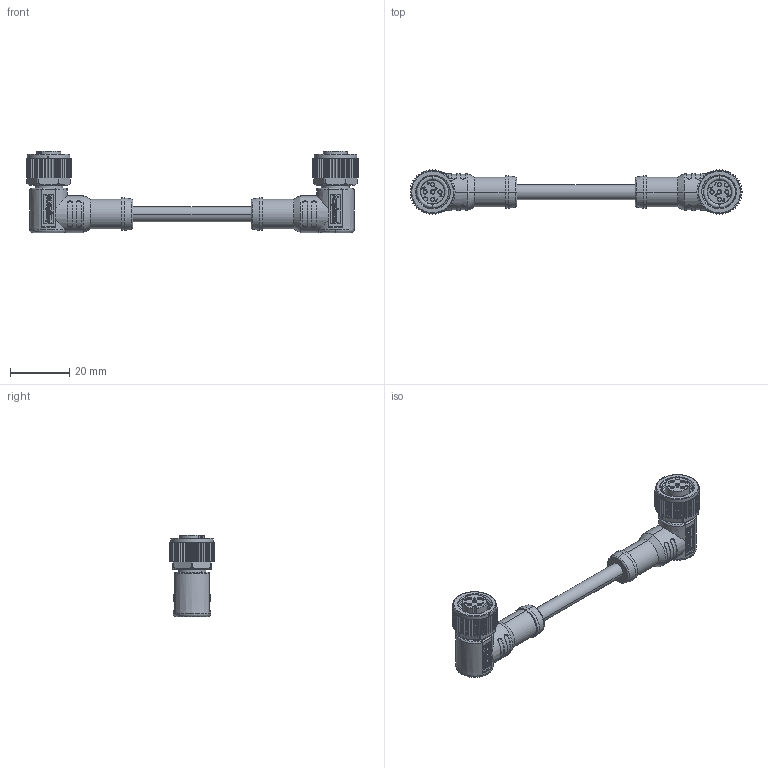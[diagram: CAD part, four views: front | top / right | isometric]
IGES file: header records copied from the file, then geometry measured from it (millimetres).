
Start section:  PTC IGES file: m12a03fr-12afr-sbxxx.igs
Global section: file name: m12a03fr-12afr-sbxxx.igs; native system: Creo Parametric by Parametric Technology Corporation; preprocessor: 2013050; author: K180302; organization: Unknown; date: 20190924.154056; units: millimetre
Bounding box: 112.5 x 15.3 x 27.5 mm (x, y, z)
Volume: 11931.5 mm3; surface area: 7314.1 mm2
Topology: 1 solids, 1 shells, 1726 faces, 4534 edges, 2926 vertices
Faces by surface type: bspline 1042, revolution 476, extrusion 208
